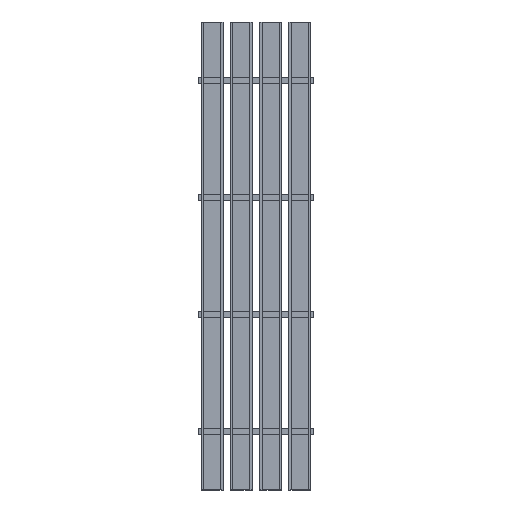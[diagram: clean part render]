
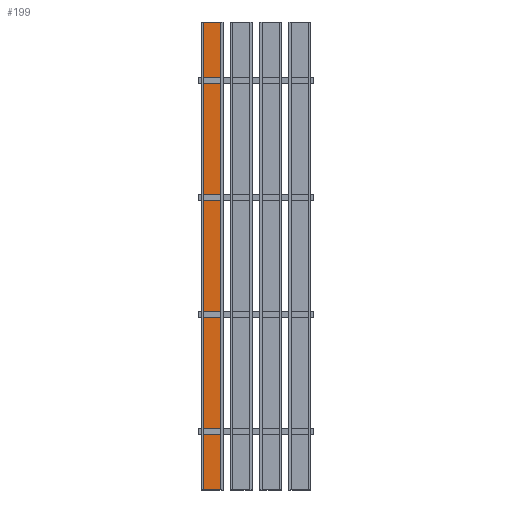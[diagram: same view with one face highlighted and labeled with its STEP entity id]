
A CAD part, top view. The second image highlights one B-rep face of the part: STEP entity #199.
In plain terms, the highlighted planar face has unit normal (0, 0, 1).
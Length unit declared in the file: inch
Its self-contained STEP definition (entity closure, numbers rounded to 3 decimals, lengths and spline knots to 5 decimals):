
#199=ADVANCED_FACE('',(#391),#3303,.T.);
#391=FACE_OUTER_BOUND('',#599,.T.);
#599=EDGE_LOOP('',(#1270,#1271,#1272,#1273));
#1270=ORIENTED_EDGE('',*,*,#2116,.F.);
#1271=ORIENTED_EDGE('',*,*,#2136,.T.);
#1272=ORIENTED_EDGE('',*,*,#2122,.F.);
#1273=ORIENTED_EDGE('',*,*,#2133,.F.);
#2116=EDGE_CURVE('',#3064,#3065,#2644,.T.);
#2122=EDGE_CURVE('',#3070,#3071,#2650,.T.);
#2133=EDGE_CURVE('',#3065,#3070,#2661,.T.);
#2136=EDGE_CURVE('',#3064,#3071,#2664,.T.);
#2644=B_SPLINE_CURVE_WITH_KNOTS('',1,(#5083,#5084),.UNSPECIFIED.,.F.,.F.,
(2,2),(0.,96.),.UNSPECIFIED.);
#2650=B_SPLINE_CURVE_WITH_KNOTS('',1,(#5095,#5096),.UNSPECIFIED.,.F.,.F.,
(2,2),(0.,96.),.UNSPECIFIED.);
#2661=B_SPLINE_CURVE_WITH_KNOTS('',1,(#5117,#5118),.UNSPECIFIED.,.F.,.F.,
(2,2),(0.,3.5),.UNSPECIFIED.);
#2664=B_SPLINE_CURVE_WITH_KNOTS('',1,(#5123,#5124),.UNSPECIFIED.,.F.,.F.,
(2,2),(0.,3.5),.UNSPECIFIED.);
#3064=VERTEX_POINT('',#4281);
#3065=VERTEX_POINT('',#4282);
#3070=VERTEX_POINT('',#4287);
#3071=VERTEX_POINT('',#4288);
#3303=PLANE('',#3586);
#3586=AXIS2_PLACEMENT_3D('',#3976,#3781,$);
#3781=DIRECTION('',(0.,0.,1.));
#3976=CARTESIAN_POINT('',(-15.89528,57.60472,-0.5));
#4281=CARTESIAN_POINT('',(-19.75,-48.,-0.5));
#4282=CARTESIAN_POINT('',(-19.75,48.,-0.5));
#4287=CARTESIAN_POINT('',(-16.25,48.,-0.5));
#4288=CARTESIAN_POINT('',(-16.25,-48.,-0.5));
#5083=CARTESIAN_POINT('',(-19.75,-48.,-0.5));
#5084=CARTESIAN_POINT('',(-19.75,48.,-0.5));
#5095=CARTESIAN_POINT('',(-16.25,48.,-0.5));
#5096=CARTESIAN_POINT('',(-16.25,-48.,-0.5));
#5117=CARTESIAN_POINT('',(-19.75,48.,-0.5));
#5118=CARTESIAN_POINT('',(-16.25,48.,-0.5));
#5123=CARTESIAN_POINT('',(-19.75,-48.,-0.5));
#5124=CARTESIAN_POINT('',(-16.25,-48.,-0.5));
